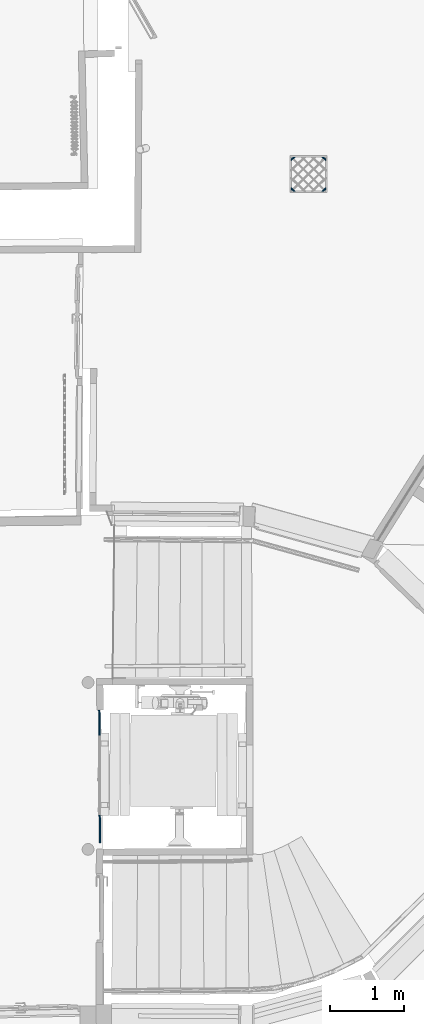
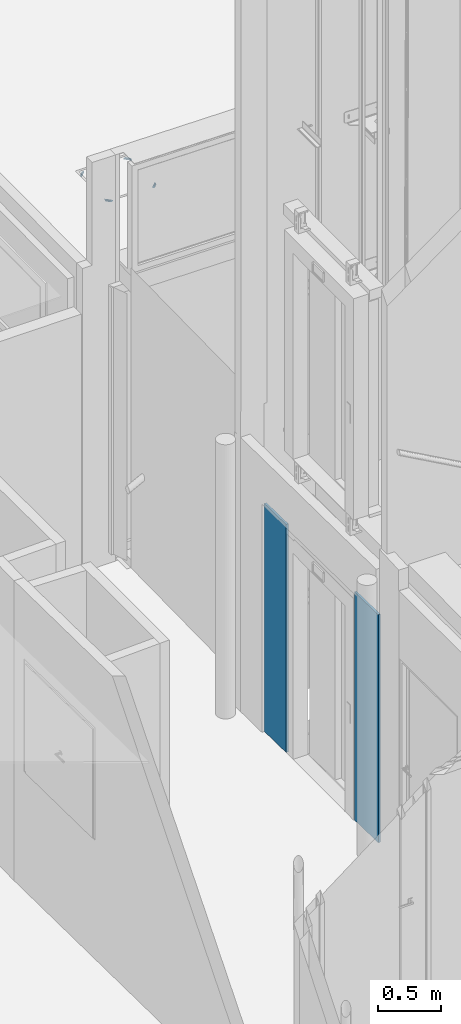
# One storey, part 88 of 133: 4 members, 2 plates, 3 elements without a shape of their own.
"""IFC2X3 building model written with IfcOpenShell, lengths in centimetres."""

from ifc_helpers import new_model, entity, si_unit, converted_unit, direction, frame, origin, origin_with_axes, place, context, subcontext, project, spatial, faceted_brep, source, transform, mapped, material, type_object, element, aggregate, save


model = new_model("IFC2X3")

# Units and contexts
model_context = context("Model", 3, precision=0.0001, world=origin(), true_north=direction((0.225632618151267, 0.974212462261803, 0.0)))
body_context = subcontext(model_context, "Body", "Model", "MODEL_VIEW")
ifc_project = project(units=[si_unit("LENGTHUNIT", "METRE", prefix="CENTI"), si_unit("AREAUNIT", "SQUARE_METRE", prefix="CENTI"), si_unit("VOLUMEUNIT", "CUBIC_METRE", prefix="CENTI"), converted_unit("PLANEANGLEUNIT", "DEGREE", entity("IfcRatioMeasure", 0.0174532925), si_unit("PLANEANGLEUNIT", "RADIAN"), dimensions=[0, 0, 0, 0, 0, 0, 0])], contexts=[model_context])

# Site, building, storey
site_placement = place(None, origin_with_axes())
site = spatial("IfcSite", under=ifc_project, at=site_placement, Name="Default Site", CompositionType="ELEMENT")
building_placement = place(site_placement, origin_with_axes())
building = spatial("IfcBuilding", under=site, at=building_placement, Name="Default Building", CompositionType="ELEMENT")
storey_placement = place(building_placement, frame((0.0, 0.0, -291.400371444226), z_axis=(0.0, 0.0, 1.0), x_axis=(1.0, 0.0, 0.0)))
storey = spatial("IfcBuildingStorey", under=building, at=storey_placement, Name="Rez-de-Jardin", CompositionType="ELEMENT", Elevation=-291.400371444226)

# Assembly, members
building_element_proxy_type = type_object("IfcBuildingElementProxyType", Name="Type Object", PredefinedType="NOTDEFINED")
assembly_1_placement = place(storey_placement, frame((1358.14143246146, 225.4756620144, -2.0), z_axis=(0.0, 1.0, -2.38697950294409e-15), x_axis=(1.0, 0.0, 0.0)))
assembly_1 = element("IfcElementAssembly", 1, at=assembly_1_placement, inside=storey, type_object=building_element_proxy_type, Name="Panneau 134273", ObjectType="Precast panel", PredefinedType="USERDEFINED")
ifc_material_1 = material(Name="Aluminium satiné")
member_1_placement = place(assembly_1_placement, frame((6.90251886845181, 0.342020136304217, 47.9999989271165), z_axis=(1.16937634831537e-15, -1.43218776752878e-15, 1.0), x_axis=(0.632455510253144, -0.774596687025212, -1.84894641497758e-15)))
member_1 = element("IfcMember", 2, at=member_1_placement, material=ifc_material_1, Name="4294966701", context=body_context, shape_type="Brep", body=[
    faceted_brep([(1.16573417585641e-13, 3.2612801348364e-14, -1.66533453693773e-14), (-0.388289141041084, 3.2612801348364e-14, -1.73712711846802e-14), (-0.799165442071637, -0.150248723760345, -1.81309594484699e-14), (-1.18307196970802, -0.432624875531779, -1.88407820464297e-14), (-1.49370326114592, -0.813068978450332, -1.94151226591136e-14), (-1.6935926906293, -1.24569397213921, -1.97847075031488e-14), (-1.75863096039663, -1.67831921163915, -1.99049597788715e-14), (-1.68097311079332, -2.0587633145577, -1.97613745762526e-14), (-1.46998578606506, -2.3411389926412, -1.93712703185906e-14), (-1.15111778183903, -2.49138835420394, -1.87817004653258e-14), (-0.762828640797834, -2.49138835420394, -1.80637746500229e-14), (-0.351951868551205, -2.34113905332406, -1.730408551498e-14), (0.0319544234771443, -2.05876319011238, -1.65942633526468e-14), (0.342585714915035, -1.67831908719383, -1.60199227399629e-14), (0.542475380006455, -1.24569380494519, -1.5650337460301e-14), (0.607513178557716, -0.813069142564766, -1.55300860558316e-14), (0.529855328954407, -0.432625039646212, -1.56736712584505e-14), (0.318868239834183, -0.150249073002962, -1.60637750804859e-14), (-2.8356974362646, -4.0137874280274, -4.98780608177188), (-2.57076977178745, -4.23009994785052, -4.90251779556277), (-2.3377962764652, -4.4203219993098, -4.65694367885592), (-2.16487702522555, -4.56150996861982, -4.28069829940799), (-2.07286859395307, -4.63663453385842, -3.81916761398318), (-2.07286859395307, -4.63663453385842, -3.32801640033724), (-2.16487702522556, -4.56150996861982, -2.86648571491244), (-2.3377962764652, -4.4203219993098, -2.4902403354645), (-2.57076977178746, -4.23009994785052, -2.24466621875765), (-2.8356974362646, -4.0137874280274, -2.15937793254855), (-3.10062510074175, -3.79747490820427, -2.24466621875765), (-3.333598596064, -3.607252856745, -2.4902403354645), (-3.50651784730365, -3.46606488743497, -2.86648571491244), (-3.59852627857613, -3.39094032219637, -3.32801640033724), (-3.59852627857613, -3.39094032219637, -3.81916761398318), (-3.50651784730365, -3.46606488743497, -4.28069829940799), (-3.333598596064, -3.607252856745, -4.65694367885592), (-3.10062510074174, -3.79747490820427, -4.90251779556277), (0.318868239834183, -0.150249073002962, -1.66533453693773e-14), (0.529855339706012, -0.432625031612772, -1.30226048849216e-08), (-2.57076931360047, -4.23009960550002, -4.90251835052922), (-2.83569728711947, -4.01378731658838, -4.98780626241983), (0.529855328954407, -0.432625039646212, -1.66533453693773e-14), (0.607513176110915, -0.813069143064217, 1.93434942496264e-09), (-2.33779645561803, -4.42032203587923, -4.65694353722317), (-2.57076924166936, -4.23009983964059, -4.90251821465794), (0.607513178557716, -0.813069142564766, -1.66533453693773e-14), (0.542475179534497, -1.24569377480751, 1.03445025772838e-07), (-2.16487647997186, -4.56151005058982, -4.280698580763), (-2.33779642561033, -4.42032197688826, -4.65694360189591), (0.542475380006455, -1.24569380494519, -1.66533453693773e-14), (0.342585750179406, -1.67831910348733, -9.68226841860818e-09), (-2.0728683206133, -4.63663466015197, -3.81916768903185), (-2.16487662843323, -4.56151015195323, -4.28069840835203), (0.342585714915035, -1.67831908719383, -1.66533453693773e-14), (0.0319544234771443, -2.05876319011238, -1.66533453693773e-14), (-0.351951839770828, -2.34113909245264, 1.21065402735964e-08), (-2.1648771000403, -4.56150986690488, -2.8664857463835), (-2.07286874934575, -4.63663432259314, -3.32801646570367), (-0.351951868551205, -2.34113905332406, -1.66533453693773e-14), (-0.762828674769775, -2.49138826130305, -5.04749981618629e-08), (-2.33779662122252, -4.42032105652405, -2.49024084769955), (-2.16487712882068, -4.56150968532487, -2.86648586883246), (-0.762828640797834, -2.49138835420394, -1.66533453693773e-14), (-1.15111778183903, -2.4913883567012, 1.93434942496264e-09), (-2.57076977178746, -4.23009958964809, -2.24466649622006), (-2.33779627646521, -4.42032091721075, -2.49024117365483), (-1.15111778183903, -2.49138835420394, -1.66533453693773e-14), (-1.46998585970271, -2.34113914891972, 1.67625346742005e-07), (-2.83569711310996, -4.01378674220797, -2.15937866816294), (-2.57076961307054, -4.23009961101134, -2.24466658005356), (-1.46998578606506, -2.3411389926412, -1.66533453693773e-14), (-1.6809729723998, -2.05876321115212, -1.67625380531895e-07), (-3.10062466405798, -3.79747458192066, -2.24466674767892), (-2.83569669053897, -4.0137868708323, -2.1593788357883), (-1.68097311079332, -2.0587633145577, -1.66533453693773e-14), (-1.75863095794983, -1.67831921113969, -1.93438251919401e-09), (-3.333597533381, -3.60725263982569, -2.4902411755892), (-3.10062474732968, -3.79747483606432, -2.24466649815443), (-1.75863096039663, -1.67831921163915, -1.66533453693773e-14), (-1.6935927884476, -1.24569395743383, 5.04749644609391e-08), (-3.50651764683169, -3.46606491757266, -2.86648581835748), (-3.33359770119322, -3.60725299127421, -2.49024079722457), (-1.6935926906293, -1.24569397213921, -1.66533453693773e-14), (-1.49370321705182, -0.813068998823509, -1.21065734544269e-08), (-3.59852599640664, -3.3909404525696, -3.32801647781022), (-3.50651768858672, -3.46606496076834, -2.86648575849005), (-1.49370326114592, -0.813068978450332, -1.66533453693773e-14), (-1.18307196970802, -0.432624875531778, -1.66533453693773e-14), (-1.18307196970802, -0.432624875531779, -1.66533453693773e-14), (-0.799165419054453, -0.15024875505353, 9.68223506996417e-09), (-3.50651808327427, -3.46606456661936, -4.28069839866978), (-3.59852643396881, -3.3909401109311, -3.8191676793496), (-0.799165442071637, -0.150248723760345, -1.66533453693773e-14), (-0.388289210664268, 1.90394093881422e-07, -1.03445059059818e-07), (-3.33359861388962, -3.60725280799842, -4.65694370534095), (-3.50651810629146, -3.46606417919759, -4.28069868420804), (-0.388289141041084, 3.2612801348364e-14, -1.66533453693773e-14), (1.16547720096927e-13, 2.49728807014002e-09, -1.93438244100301e-09), (-3.10062510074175, -3.7974743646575, -4.9025182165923), (-3.333598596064, -3.60725303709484, -4.65694353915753), (0.318868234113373, -0.15024908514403, 1.30225723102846e-08), (-2.83569736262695, -4.01378727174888, -4.98780624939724), (-3.10062486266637, -3.7974744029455, -4.90251833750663)], [[[0, 1, 2, 3, 4, 5, 6, 7, 8, 9, 10, 11, 12, 13, 14, 15, 16, 17]], [[18, 19, 20, 21, 22, 23, 24, 25, 26, 27, 28, 29, 30, 31, 32, 33, 34, 35]], [[36, 37, 38, 39]], [[40, 41, 42, 43]], [[44, 45, 46, 47]], [[48, 49, 50, 51]], [[52, 53, 23, 22]], [[53, 54, 55, 56]], [[57, 58, 59, 60]], [[61, 62, 63, 64]], [[65, 66, 67, 68]], [[69, 70, 71, 72]], [[73, 74, 75, 76]], [[77, 78, 79, 80]], [[81, 82, 83, 84]], [[85, 86, 32, 31]], [[87, 88, 89, 90]], [[91, 92, 93, 94]], [[95, 96, 97, 98]], [[0, 99, 100, 101]]]),
])
member_2_placement = place(assembly_1_placement, frame((47.9999989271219, 0.342020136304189, 4.24466691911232), z_axis=(0.999999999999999, 0.0, 0.0), x_axis=(0.0, -0.774596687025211, -0.632455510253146)))
member_2 = element("IfcMember", 3, at=member_2_placement, material=ifc_material_1, Name="4294966695", context=body_context, shape_type="Brep", body=[
    faceted_brep([(-4.57966997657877e-14, -2.0122792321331e-14, -1.55431223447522e-13), (-0.388289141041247, -1.87350135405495e-14, -1.55431223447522e-13), (-0.799165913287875, -0.150249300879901, -1.55431223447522e-13), (-1.18307220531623, -0.43262516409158, -1.55431223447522e-13), (-1.49370349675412, -0.813069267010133, -1.55431223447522e-13), (-1.69359316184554, -1.24569454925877, -1.55431223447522e-13), (-1.7586309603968, -1.67831921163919, -1.55431223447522e-13), (-1.68097311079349, -2.05876331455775, -1.55431223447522e-13), (-1.46998602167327, -2.341139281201, -1.55431223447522e-13), (-1.1511177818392, -2.49138835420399, -1.55431223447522e-13), (-0.762828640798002, -2.491388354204, -1.55431223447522e-13), (-0.351952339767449, -2.34113963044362, -1.55431223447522e-13), (0.0319541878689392, -2.05876347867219, -1.55431223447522e-13), (0.342585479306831, -1.67831937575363, -1.55431223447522e-13), (0.542474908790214, -1.24569438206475, -1.55431223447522e-13), (0.607513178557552, -0.81306914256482, -1.55431223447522e-13), (0.529855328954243, -0.432625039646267, -1.55431223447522e-13), (0.318868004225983, -0.150249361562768, -1.55431223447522e-13), (1.68457965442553, 1.52239907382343, -2.15937793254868), (1.94950731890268, 1.30608655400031, -2.24466621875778), (2.18248081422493, 1.11586450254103, -2.49024033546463), (2.35540006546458, 0.974676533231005, -2.86648571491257), (2.44740849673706, 0.899551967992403, -3.32801640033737), (2.44740849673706, 0.899551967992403, -3.81916761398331), (2.35540006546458, 0.974676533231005, -4.28069829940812), (2.18248081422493, 1.11586450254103, -4.65694367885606), (1.94950731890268, 1.30608655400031, -4.9025177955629), (1.68457965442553, 1.52239907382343, -4.98780608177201), (1.41965198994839, 1.73871159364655, -4.9025177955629), (1.18667849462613, 1.92893364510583, -4.65694367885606), (1.01375924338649, 2.07012161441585, -4.28069829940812), (0.921750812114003, 2.14524617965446, -3.81916761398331), (0.921750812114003, 2.14524617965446, -3.32801640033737), (1.01375924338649, 2.07012161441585, -2.86648571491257), (1.18667849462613, 1.92893364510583, -2.49024033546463), (1.41965198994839, 1.73871159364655, -2.24466621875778), (0.529855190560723, -0.432625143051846, -1.67625519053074e-07), (1.9495068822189, 1.30608622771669, -2.24466674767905), (1.6845789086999, 1.52239851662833, -2.15937883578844), (0.607513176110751, -0.813069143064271, -1.93452158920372e-09), (2.18247975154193, 1.11586428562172, -2.49024117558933), (1.94950696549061, 1.30608648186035, -2.24466649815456), (0.542475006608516, -1.24569439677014, 5.04748259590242e-08), (2.35539986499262, 0.974676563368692, -2.86648581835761), (2.18247991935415, 1.11586463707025, -2.4902407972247), (0.342585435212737, -1.67831935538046, -1.21067124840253e-08), (2.44740821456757, 0.899552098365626, -3.32801647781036), (2.35539990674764, 0.974676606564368, -2.86648575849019), (0.0319541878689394, -2.05876347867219, -1.55431223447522e-13), (2.44740849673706, 0.899551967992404, -3.81916761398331), (2.44740849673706, 0.899551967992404, -3.32801640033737), (-0.351952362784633, -2.34113959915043, 9.68209608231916e-09), (2.3554003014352, 0.974676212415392, -4.28069839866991), (2.44740865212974, 0.899551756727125, -3.81916767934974), (-0.762828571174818, -2.49138854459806, -1.03445197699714e-07), (2.18248083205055, 1.11586445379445, -4.65694370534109), (2.35540032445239, 0.974675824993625, -4.28069868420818), (-1.1511177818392, -2.49138835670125, -1.93452129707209e-09), (1.94950731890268, 1.30608601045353, -4.90251821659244), (2.18248081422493, 1.11586468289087, -4.65694353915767), (-1.46998601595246, -2.34113926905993, 1.30224331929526e-08), (1.68457958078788, 1.52239891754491, -4.98780624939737), (1.9495070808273, 1.30608604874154, -4.90251833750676), (-1.6809731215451, -2.05876332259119, -1.30227440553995e-08), (1.4196515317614, 1.73871125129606, -4.90251835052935), (1.68457950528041, 1.52239896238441, -4.98780626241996), (-1.75863095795, -1.67831921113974, 1.93421064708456e-09), (1.18667867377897, 1.92893368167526, -4.6569435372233), (1.41965145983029, 1.73871148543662, -4.90251821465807), (-1.69359296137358, -1.24569457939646, 1.03444886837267e-07), (1.01375869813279, 2.07012169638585, -4.28069858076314), (1.18667864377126, 1.92893362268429, -4.65694360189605), (-1.49370353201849, -0.813069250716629, -9.68240707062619e-09), (0.921750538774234, 2.145246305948, -3.81916768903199), (1.01375884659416, 2.07012179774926, -4.28069840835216), (0.921750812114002, 2.14524617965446, -3.32801640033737), (0.921750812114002, 2.14524617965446, -3.81916761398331), (-0.799165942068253, -0.150249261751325, 1.21064016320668e-08), (1.01375931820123, 2.07012151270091, -2.86648574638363), (0.921750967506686, 2.14524596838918, -3.3280164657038), (-0.388289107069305, -9.29009106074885e-08, -5.04751368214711e-08), (1.18667883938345, 1.92893270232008, -2.49024084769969), (1.01375934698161, 2.0701213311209, -2.86648586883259), (-4.58223972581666e-14, 2.49723594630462e-09, 1.93421083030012e-09), (1.41965198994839, 1.73871123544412, -2.2446664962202), (1.18667849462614, 1.92893256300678, -2.49024117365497), (0.318868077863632, -0.150249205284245, 1.67625208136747e-07), (1.68457933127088, 1.522398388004, -2.15937866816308), (1.41965183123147, 1.73871125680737, -2.24466658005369)], [[[0, 1, 2, 3, 4, 5, 6, 7, 8, 9, 10, 11, 12, 13, 14, 15, 16, 17]], [[18, 19, 20, 21, 22, 23, 24, 25, 26, 27, 28, 29, 30, 31, 32, 33, 34, 35]], [[17, 36, 37, 38]], [[16, 39, 40, 41]], [[15, 42, 43, 44]], [[14, 45, 46, 47]], [[13, 48, 49, 50]], [[12, 51, 52, 53]], [[11, 54, 55, 56]], [[10, 57, 58, 59]], [[9, 60, 61, 62]], [[8, 63, 64, 65]], [[7, 66, 67, 68]], [[6, 69, 70, 71]], [[5, 72, 73, 74]], [[4, 3, 75, 76]], [[3, 77, 78, 79]], [[2, 80, 81, 82]], [[1, 83, 84, 85]], [[0, 86, 87, 88]]]),
])
member_3_placement = place(assembly_1_placement, frame((47.9999989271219, 0.342020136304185, 43.0974811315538), z_axis=(0.999999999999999, 0.0, 0.0), x_axis=(0.0, -0.774598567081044, -0.632453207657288)))
member_3 = element("IfcMember", 4, at=member_3_placement, material=ifc_material_1, Name="4294966694", context=body_context, shape_type="Brep", body=[
    faceted_brep([(4.9960036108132e-14, -1.66533453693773e-14, 0.0), (-0.388288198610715, -1.66533453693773e-14, 0.0), (-0.79916546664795, -0.150251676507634, 0.0), (-1.18307068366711, -0.432628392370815, 0.0), (-1.49370084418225, -0.813073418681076, 0.0), (-1.69358875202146, -1.24569871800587, 0.0), (-1.75862667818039, -1.67832530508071, 0.0), (-1.68096675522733, -2.05876802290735, 0.0), (-1.46997929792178, -2.3411439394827, 0.0), (-1.15111014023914, -2.4913914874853, 0.0), (-0.762821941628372, -2.4913914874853, 0.0), (-0.351944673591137, -2.34113981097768, 0.0), (0.0319605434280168, -2.0587630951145, 0.0), (0.342590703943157, -1.67831806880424, 0.0), (0.542478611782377, -1.24569276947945, 0.0), (0.607516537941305, -0.813066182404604, 0.0), (0.529856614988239, -0.432623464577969, 0.0), (0.318869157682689, -0.150247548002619, 0.0), (-2.83568479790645, -4.01379499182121, -4.98780608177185), (-2.57075649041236, -4.23010672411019, -4.90251779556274), (-2.33778242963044, -4.4203280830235, -4.6569436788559), (-2.16486275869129, -4.56151553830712, -4.28069829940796), (-2.07285410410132, -4.63663983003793, -3.81916761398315), (-2.07285410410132, -4.63663983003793, -3.32801640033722), (-2.16486275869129, -4.56151553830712, -2.86648571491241), (-2.33778242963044, -4.4203280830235, -2.49024033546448), (-2.57075649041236, -4.23010672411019, -2.24466621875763), (-2.83568479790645, -4.01379499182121, -2.15937793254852), (-3.10061310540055, -3.79748325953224, -2.24466621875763), (-3.33358716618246, -3.60726190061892, -2.49024033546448), (-3.50650683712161, -3.4660744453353, -2.86648571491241), (-3.59851549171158, -3.3909501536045, -3.32801640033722), (-3.59851549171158, -3.3909501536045, -3.81916761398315), (-3.50650683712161, -3.4660744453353, -4.28069829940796), (-3.33358716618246, -3.60726190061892, -4.6569436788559), (-3.10061310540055, -3.79748325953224, -4.90251779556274), (0.529856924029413, -0.43262323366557, -3.74318495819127e-07), (-2.57075618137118, -4.23010649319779, -4.90251816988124), (0.607515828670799, -0.81306632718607, 5.60727922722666e-07), (-2.33778313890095, -4.42032822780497, -4.65694311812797), (0.542479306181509, -1.24569287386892, -3.58315028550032e-07), (-2.16486206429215, -4.56151564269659, -4.28069865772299), (-2.33778242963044, -4.42032808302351, -4.6569436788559), (0.342590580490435, -1.67831801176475, 3.38953638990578e-08), (-2.07285422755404, -4.63663977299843, -3.81916758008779), (0.0319605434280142, -2.0587630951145, 0.0), (-2.07285410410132, -4.63663983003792, -3.32801640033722), (-2.07285410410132, -4.63663983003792, -3.81916761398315), (-0.351944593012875, -2.34113992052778, 3.38953649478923e-08), (-2.16486267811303, -4.56151564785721, -2.86648568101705), (-0.762822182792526, -2.49139082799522, -3.58315028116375e-07), (-2.3377826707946, -4.42032742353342, -2.49024069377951), (-1.15111014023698, -2.49139221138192, 5.60727920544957e-07), (-2.5707564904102, -4.23010744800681, -2.24466565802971), (-1.46997913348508, -2.34114359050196, -3.74318492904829e-07), (-2.83568463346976, -4.01379464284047, -2.15937830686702), (-1.6809670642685, -2.05876825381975, 3.74318495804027e-07), (-3.10061341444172, -3.79748349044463, -2.24466584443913), (-1.75862596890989, -1.67832516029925, -5.6072792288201e-07), (-3.33358645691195, -3.60726175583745, -2.4902408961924), (-3.10061310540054, -3.79748325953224, -2.24466621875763), (-1.6935894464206, -1.2456986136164, 3.58315028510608e-07), (-3.50650753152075, -3.46607434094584, -2.86648535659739), (-1.49370072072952, -0.813073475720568, -3.38953650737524e-08), (-3.59851536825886, -3.39095021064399, -3.32801643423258), (-1.18307068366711, -0.432628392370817, 0.0), (-0.799165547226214, -0.150251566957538, -3.38953658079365e-08), (-3.50650691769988, -3.46607433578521, -4.28069833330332), (-3.59851549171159, -3.3909501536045, -3.81916761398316), (-0.388287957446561, -6.59490096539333e-07, 3.58315028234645e-07), (-3.33358692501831, -3.607262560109, -4.65694332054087), (-2.10936935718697e-12, 7.23896605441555e-07, -5.60727920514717e-07), (-3.10061310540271, -3.79748253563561, -4.90251835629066), (0.318868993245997, -0.150247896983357, 3.74318492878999e-07), (-2.83568496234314, -4.01379534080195, -4.98780570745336)], [[[0, 1, 2, 3, 4, 5, 6, 7, 8, 9, 10, 11, 12, 13, 14, 15, 16, 17]], [[18, 19, 20, 21, 22, 23, 24, 25, 26, 27, 28, 29, 30, 31, 32, 33, 34, 35]], [[17, 36, 37, 18]], [[16, 38, 39, 19]], [[15, 40, 41, 42]], [[14, 43, 44, 21]], [[13, 45, 46, 47]], [[12, 48, 49, 23]], [[11, 50, 51, 24]], [[10, 52, 53, 25]], [[9, 54, 55, 26]], [[8, 56, 57, 27]], [[7, 58, 59, 60]], [[6, 61, 62, 29]], [[5, 63, 64, 30]], [[4, 65, 32, 31]], [[3, 66, 67, 68]], [[2, 69, 70, 33]], [[1, 71, 72, 34]], [[0, 73, 74, 35]]]),
])
member_4_placement = place(assembly_1_placement, frame((4.24466691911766, 0.342020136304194, 1.99999995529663), z_axis=(1.16937634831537e-15, 1.43218776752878e-15, -1.0), x_axis=(-0.632455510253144, -0.774596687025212, -1.84894641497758e-15)))
member_4 = element("IfcMember", 5, at=member_4_placement, material=ifc_material_1, Name="4294966688", context=body_context, shape_type="Brep", body=[
    faceted_brep([(-4.23272528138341e-14, -1.60288449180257e-13, 4.85722573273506e-14), (-0.388289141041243, -1.59941504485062e-13, 4.92901831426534e-14), (-0.799165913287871, -0.150249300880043, 5.00498722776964e-14), (-1.18307220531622, -0.432625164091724, 5.07596944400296e-14), (-1.49370349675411, -0.813069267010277, 5.13340350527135e-14), (-1.69359316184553, -1.24569454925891, 5.17036203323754e-14), (-1.75863096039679, -1.67831921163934, 5.18238717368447e-14), (-1.68097311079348, -2.05876331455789, 5.16802865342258e-14), (-1.46998602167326, -2.34113928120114, 5.12901827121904e-14), (-1.15111778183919, -2.49138835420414, 5.0700612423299e-14), (-0.762828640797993, -2.49138835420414, 4.99826866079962e-14), (-0.351952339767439, -2.34113963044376, 4.92229983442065e-14), (0.0319541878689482, -2.05876347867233, 4.85131757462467e-14), (0.342585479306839, -1.67831937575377, 4.79388351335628e-14), (0.542474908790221, -1.24569438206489, 4.75692502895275e-14), (0.607513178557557, -0.813069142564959, 4.74489980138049e-14), (0.529855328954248, -0.432625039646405, 4.75925832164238e-14), (0.318868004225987, -0.150249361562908, 4.79826874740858e-14), (1.68457965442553, 1.52239907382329, -2.15937979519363), (1.94950731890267, 1.30608655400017, -2.24466696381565), (2.18248081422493, 1.11586450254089, -2.49024257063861), (2.35540006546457, 0.974676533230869, -2.86648645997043), (2.44740849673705, 0.899551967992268, -3.32801751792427), (2.44740849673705, 0.899551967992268, -3.8191687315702), (2.35540006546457, 0.97467653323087, -4.28070016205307), (2.18248081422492, 1.11586450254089, -4.65694330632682), (1.94950731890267, 1.30608655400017, -4.90251891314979), (1.68457965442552, 1.52239907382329, -4.98780645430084), (1.41965198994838, 1.73871159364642, -4.90251891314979), (1.18667849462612, 1.92893364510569, -4.65694330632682), (1.01375924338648, 2.07012161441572, -4.28070016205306), (0.921750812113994, 2.14524617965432, -3.8191687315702), (0.921750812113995, 2.14524617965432, -3.32801751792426), (1.01375924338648, 2.07012161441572, -2.86648645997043), (1.18667849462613, 1.92893364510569, -2.49024257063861), (1.41965198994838, 1.73871159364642, -2.24466696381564), (0.318868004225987, -0.150249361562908, 4.82253126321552e-14), (0.529855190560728, -0.432625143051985, -1.67625315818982e-07), (1.94950718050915, 1.30608645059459, -2.24466713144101), (0.529855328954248, -0.432625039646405, 4.78783679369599e-14), (0.607513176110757, -0.81306914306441, -1.93431844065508e-09), (2.18248081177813, 1.11586450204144, -2.49024257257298), (0.607513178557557, -0.813069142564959, 4.75314232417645e-14), (0.542475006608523, -1.24569439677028, 5.04750287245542e-08), (2.35540016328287, 0.974676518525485, -2.86648640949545), (0.542474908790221, -1.24569438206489, 4.75314232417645e-14), (0.342585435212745, -1.6783193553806, -1.21065086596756e-08), (2.44740845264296, 0.899551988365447, -3.32801753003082), (2.35540006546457, 0.97467653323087, -2.86648645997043), (0.342585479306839, -1.67831937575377, 4.82253126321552e-14), (0.0319541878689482, -2.05876347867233, 4.8919202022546e-14), (2.44740849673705, 0.899551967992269, -3.8191687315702), (2.44740849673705, 0.899551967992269, -3.32801751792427), (-0.351952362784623, -2.34113959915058, 9.68230103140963e-09), (2.35540004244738, 0.974676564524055, -4.28070015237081), (2.44740849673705, 0.89955196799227, -3.8191687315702), (-0.351952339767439, -2.34113963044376, 4.92661467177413e-14), (-0.762828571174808, -2.4913885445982, -1.03444992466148e-07), (2.18248088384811, 1.11586431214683, -4.65694340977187), (-0.762828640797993, -2.49138835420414, 4.9960036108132e-14), (-1.15111778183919, -2.49138835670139, -1.93431528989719e-09), (1.94950731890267, 1.30608655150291, -4.90251891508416), (-1.15111778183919, -2.49138835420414, 5.10008701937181e-14), (-1.46998601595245, -2.34113926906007, 1.30226403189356e-08), (1.68457966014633, 1.52239908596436, -4.98780644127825), (-1.46998602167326, -2.34113928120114, 5.16947595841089e-14), (-1.68097312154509, -2.05876332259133, -1.30225364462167e-08), (1.41965197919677, 1.73871158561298, -4.90251892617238), (-1.68097311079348, -2.05876331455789, 5.16947595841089e-14), (-1.75863095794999, -1.67831921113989, 1.93441790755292e-09), (1.18667849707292, 1.92893364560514, -4.65694330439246), (-1.75863096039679, -1.67831921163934, 5.20417042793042e-14), (-1.69359296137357, -1.2456945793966, 1.03445094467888e-07), (1.01375944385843, 2.07012158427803, -4.28070005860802), (-1.69359316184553, -1.24569454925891, 5.20417042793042e-14), (-1.49370353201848, -0.813069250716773, -9.6822001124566e-09), (0.921750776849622, 2.14524619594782, -3.81916874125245), (-1.49370349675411, -0.813069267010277, 5.16947595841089e-14), (-1.18307220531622, -0.432625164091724, 5.10008701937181e-14), (0.921750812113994, 2.14524617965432, -3.32801751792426), (0.921750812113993, 2.14524617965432, -3.8191687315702), (-0.799165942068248, -0.150249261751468, 1.21066072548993e-08), (1.0137592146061, 2.07012165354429, -2.86648644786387), (-0.799165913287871, -0.150249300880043, 5.03069808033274e-14), (-0.388289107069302, -9.2901052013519e-08, -5.04749318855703e-08), (1.18667852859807, 1.9289335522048, -2.49024262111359), (-0.388289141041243, -1.59941504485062e-13, 4.96130914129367e-14), (-4.23529503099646e-14, 2.49709588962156e-09, 1.93441491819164e-09), (1.41965198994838, 1.73871159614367, -2.24466696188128), (0.318868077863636, -0.150249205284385, 1.67625411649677e-07), (1.68457972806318, 1.52239923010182, -2.15937962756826)], [[[0, 1, 2, 3, 4, 5, 6, 7, 8, 9, 10, 11, 12, 13, 14, 15, 16, 17]], [[18, 19, 20, 21, 22, 23, 24, 25, 26, 27, 28, 29, 30, 31, 32, 33, 34, 35]], [[36, 37, 38, 18]], [[39, 40, 41, 19]], [[42, 43, 44, 20]], [[45, 46, 47, 48]], [[49, 50, 51, 52]], [[50, 53, 54, 55]], [[56, 57, 58, 24]], [[59, 60, 61, 25]], [[62, 63, 64, 26]], [[65, 66, 67, 27]], [[68, 69, 70, 28]], [[71, 72, 73, 29]], [[74, 75, 76, 30]], [[77, 78, 79, 80]], [[78, 81, 82, 32]], [[83, 84, 85, 33]], [[86, 87, 88, 34]], [[0, 89, 90, 35]]]),
])
aggregate(assembly_1, [member_1, member_2, member_3, member_4])

# Assembly, plate
assembly_2_placement = place(storey_placement, frame((1100.22602089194, -615.345360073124, 0.0), z_axis=(0.0, 0.0, 1.0), x_axis=(0.0160800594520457, -0.999870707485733, 0.0)))
assembly_2 = element("IfcElementAssembly", 6, at=assembly_2_placement, inside=storey, type_object=building_element_proxy_type, Name="Panneau 1527632", ObjectType="Precast panel", PredefinedType="USERDEFINED")
ifc_material_2 = material(Name="Aluminium mat")
shared_shape_1 = source(origin_with_axes(), body_context, "Body", "Brep", [
    faceted_brep([(37.2000008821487, 221.600008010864, -0.999999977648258), (37.2000008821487, 0.0, -0.999999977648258), (0.0, 0.0, -0.999999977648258), (1.11022302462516e-14, 221.600008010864, -0.999999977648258), (1.11022302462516e-14, 221.600008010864, 0.999999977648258), (0.0, 0.0, 0.999999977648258), (37.2000008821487, 0.0, 0.999999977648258), (37.2000008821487, 221.600008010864, 0.999999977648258), (-6.23692995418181e-22, 3.12472174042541e-38, -0.999999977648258), (-6.23692995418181e-22, 3.12472174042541e-38, 0.999999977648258), (37.2000008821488, 221.600008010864, -0.999999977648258), (37.2000008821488, 221.600008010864, 0.999999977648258)], [[[0, 1, 2, 3]], [[4, 5, 6, 7]], [[3, 8, 9, 4]], [[2, 1, 6, 5]], [[1, 10, 11, 6]], [[0, 3, 4, 7]]]),
])
plate_1_placement = place(assembly_2_placement, frame((37.2000008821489, 1.99999997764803, 221.600008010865), z_axis=(0.0, 1.0, 0.0), x_axis=(0.0, 0.0, 1.0)))
plate_1 = element("IfcPlate", 7, at=plate_1_placement, material=ifc_material_2, Name="4294967254", context=body_context, shape_type="MappedRepresentation", body=[
    mapped(shared_shape_1, transform((-221.600008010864, -37.2000008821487, -0.999999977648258), x_axis=(0.0, 1.0, 0.0), y_axis=(1.0, 0.0, 0.0), z_axis=(0.0, 0.0, -1.0), scale=1.0, scale2=1.0, scale3=1.0, uniform=False)),
])
aggregate(assembly_2, [plate_1])

assembly_3_placement = place(storey_placement, frame((1100.00129296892, -507.359458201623, 0.0), z_axis=(0.0, 0.0, 1.0), x_axis=(-0.0128744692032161, 0.99991712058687, 0.0)))
assembly_3 = element("IfcElementAssembly", 8, at=assembly_3_placement, inside=storey, type_object=building_element_proxy_type, Name="Panneau 1527631", ObjectType="Precast panel", PredefinedType="USERDEFINED")
shared_shape_2 = source(origin_with_axes(), body_context, "Body", "Brep", [
    faceted_brep([(34.2000007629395, 221.600008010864, -0.999999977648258), (34.2000007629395, 0.0, -0.999999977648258), (0.0, 0.0, -0.999999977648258), (1.11022302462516e-14, 221.600008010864, -0.999999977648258), (1.11022302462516e-14, 221.600008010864, 0.999999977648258), (0.0, 0.0, 0.999999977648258), (34.2000007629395, 0.0, 0.999999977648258), (34.2000007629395, 221.600008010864, 0.999999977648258), (-6.23692995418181e-22, 3.12472174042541e-38, -0.999999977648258), (-6.23692995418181e-22, 3.12472174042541e-38, 0.999999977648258)], [[[0, 1, 2, 3]], [[4, 5, 6, 7]], [[3, 8, 9, 4]], [[2, 1, 6, 5]], [[1, 0, 7, 6]], [[0, 3, 4, 7]]]),
])
plate_2_placement = place(assembly_3_placement, frame((34.2000007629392, -2.23526512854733e-08, 221.600008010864), z_axis=(1.73472347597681e-18, 1.0, 0.0), x_axis=(0.0, 0.0, 1.0)))
plate_2 = element("IfcPlate", 9, at=plate_2_placement, material=ifc_material_2, Name="4294967234", context=body_context, shape_type="MappedRepresentation", body=[
    mapped(shared_shape_2, transform((-221.600008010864, -34.2000007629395, -0.999999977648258), x_axis=(0.0, 1.0, 1.73472347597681e-18), y_axis=(1.0, 0.0, 0.0), z_axis=(0.0, 1.73472347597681e-18, -1.0), scale=1.0, scale2=1.0, scale3=1.0, uniform=False)),
])
aggregate(assembly_3, [plate_2])

save(model, "model.ifc")
